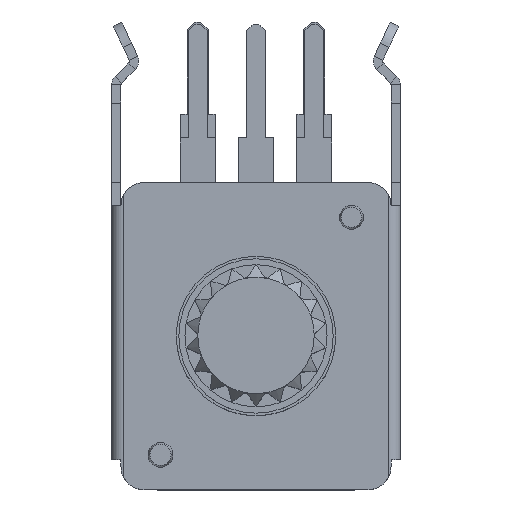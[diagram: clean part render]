
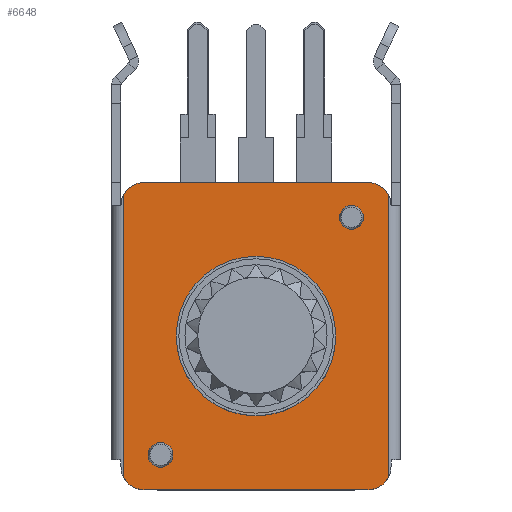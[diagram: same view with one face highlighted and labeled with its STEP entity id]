
A CAD part, top view. The second image highlights one B-rep face of the part: STEP entity #6648.
In plain terms, the highlighted planar face has unit normal (0, 0, 1).
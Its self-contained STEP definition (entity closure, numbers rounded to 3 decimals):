
#411=LINE($,#10053,#1195);
#459=LINE($,#10190,#1243);
#465=LINE($,#10210,#1249);
#466=LINE($,#10213,#1250);
#1195=VECTOR($,#8165,12.072);
#1243=VECTOR($,#8263,12.072);
#1249=VECTOR($,#8285,9.6);
#1250=VECTOR($,#8288,9.6);
#1761=PLANE($,#7109);
#2077=FACE_OUTER_BOUND($,#2420,.T.);
#2420=EDGE_LOOP($,(#5253,#5254,#5255,#5256,#5257,#5258,#5259,#5260));
#2662=CIRCLE($,#7081,1.);
#2666=CIRCLE($,#7099,1.);
#2671=CIRCLE($,#7107,1.);
#2673=CIRCLE($,#7110,1.);
#3054=VERTEX_POINT($,#10045);
#3055=VERTEX_POINT($,#10052);
#3061=VERTEX_POINT($,#10073);
#3098=VERTEX_POINT($,#10170);
#3099=VERTEX_POINT($,#10177);
#3101=VERTEX_POINT($,#10183);
#3106=VERTEX_POINT($,#10204);
#3108=VERTEX_POINT($,#10211);
#3869=EDGE_CURVE($,#3054,#3055,#411,.T.);
#3878=EDGE_CURVE($,#3061,#3054,#2662,.T.);
#3924=EDGE_CURVE($,#3098,#3099,#2666,.T.);
#3928=EDGE_CURVE($,#3101,#3098,#459,.T.);
#3936=EDGE_CURVE($,#3055,#3106,#2671,.T.);
#3939=EDGE_CURVE($,#3099,#3061,#465,.T.);
#3940=EDGE_CURVE($,#3108,#3101,#2673,.T.);
#3941=EDGE_CURVE($,#3106,#3108,#466,.T.);
#5253=ORIENTED_EDGE($,*,*,#3869,.F.);
#5254=ORIENTED_EDGE($,*,*,#3878,.F.);
#5255=ORIENTED_EDGE($,*,*,#3939,.F.);
#5256=ORIENTED_EDGE($,*,*,#3924,.F.);
#5257=ORIENTED_EDGE($,*,*,#3928,.F.);
#5258=ORIENTED_EDGE($,*,*,#3940,.F.);
#5259=ORIENTED_EDGE($,*,*,#3941,.F.);
#5260=ORIENTED_EDGE($,*,*,#3936,.F.);
#6648=ADVANCED_FACE($,(#2077),#1761,.T.);
#7081=AXIS2_PLACEMENT_3D($,#10075,#8179,#8180);
#7099=AXIS2_PLACEMENT_3D($,#10178,#8256,#8257);
#7107=AXIS2_PLACEMENT_3D($,#10205,#8278,#8279);
#7109=AXIS2_PLACEMENT_3D($,#10209,#8283,#8284);
#7110=AXIS2_PLACEMENT_3D($,#10212,#8286,#8287);
#8165=DIRECTION($,(0.,1.,0.));
#8179=DIRECTION('center_axis',(0.,0.,
-1.));
#8180=DIRECTION('ref_axis',(-0.707,-0.707,0.));
#8256=DIRECTION('center_axis',(0.,0.,
-1.));
#8257=DIRECTION('ref_axis',(0.707,-0.707,0.));
#8263=DIRECTION($,(0.,-1.,0.));
#8278=DIRECTION('center_axis',(0.,0.,
-1.));
#8279=DIRECTION('ref_axis',(-0.707,0.707,0.));
#8283=DIRECTION('center_axis',(0.,0.,
1.));
#8284=DIRECTION('ref_axis',(1.,0.,0.));
#8285=DIRECTION($,(-1.,0.,0.));
#8286=DIRECTION('center_axis',(0.,0.,
-1.));
#8287=DIRECTION('ref_axis',(0.707,0.707,0.));
#8288=DIRECTION($,(1.,0.,0.));
#10045=CARTESIAN_POINT('',(-5.7,-6.036,6.1));
#10052=CARTESIAN_POINT('',(-5.7,6.036,6.1));
#10053=CARTESIAN_POINT($,(-5.7,0.,6.1));
#10073=CARTESIAN_POINT('',(-4.8,-6.6,6.1));
#10075=CARTESIAN_POINT('Origin',(-4.8,-5.6,6.1));
#10170=CARTESIAN_POINT('',(5.7,-6.036,6.1));
#10177=CARTESIAN_POINT('',(4.8,-6.6,6.1));
#10178=CARTESIAN_POINT('Origin',(4.8,-5.6,6.1));
#10183=CARTESIAN_POINT('',(5.7,6.036,6.1));
#10190=CARTESIAN_POINT($,(5.7,0.,6.1));
#10204=CARTESIAN_POINT('',(-4.8,6.6,6.1));
#10205=CARTESIAN_POINT('Origin',(-4.8,5.6,6.1));
#10209=CARTESIAN_POINT('Origin',(0.,0.,
6.1));
#10210=CARTESIAN_POINT($,(5.8,-6.6,6.1));
#10211=CARTESIAN_POINT('',(4.8,6.6,6.1));
#10212=CARTESIAN_POINT('Origin',(4.8,5.6,6.1));
#10213=CARTESIAN_POINT($,(-5.8,6.6,6.1));
